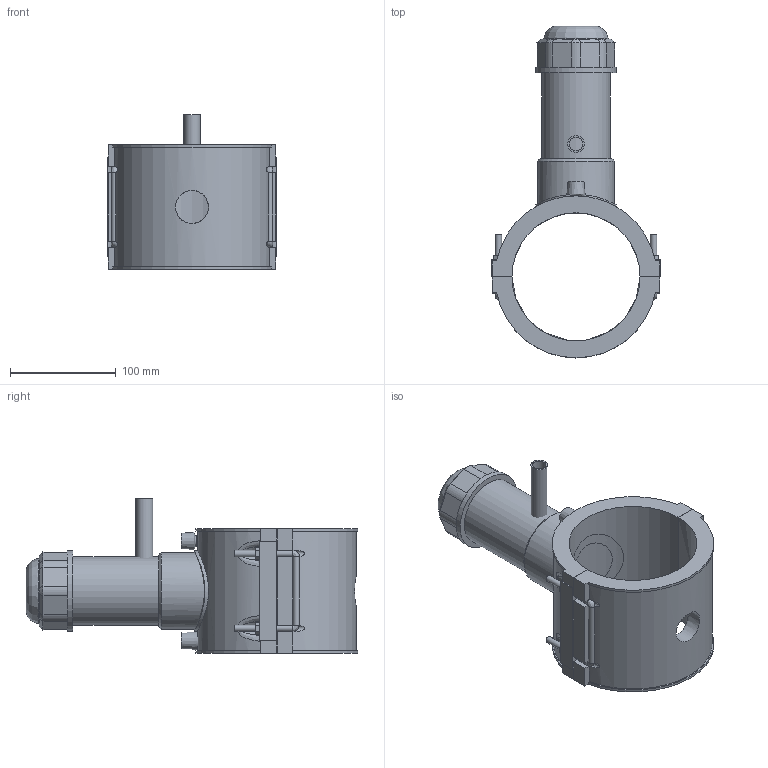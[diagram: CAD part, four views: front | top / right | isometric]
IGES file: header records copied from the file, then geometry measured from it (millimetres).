
Global section: file name: 5963DUP3040005.ipt; native system: Autodesk Inventor 2019; preprocessor: unknown; author: KIM; date: 20210830.101708; units: inch
Bounding box: 161 x 314.4 x 146.43 mm (x, y, z)
Volume: 1143727.3 mm3; surface area: 215177.8 mm2
Topology: 4 solids, 4 shells, 194 faces, 481 edges, 312 vertices
Faces by surface type: plane 118, cylinder 36, revolution 21, cone 15, bspline 4
Full cylindrical faces by diameter (mm): 4 x2, 6 x8, 15.8 x1, 61.135 x1, 64.956 x1, 72.598 x1, 76.419 x2
